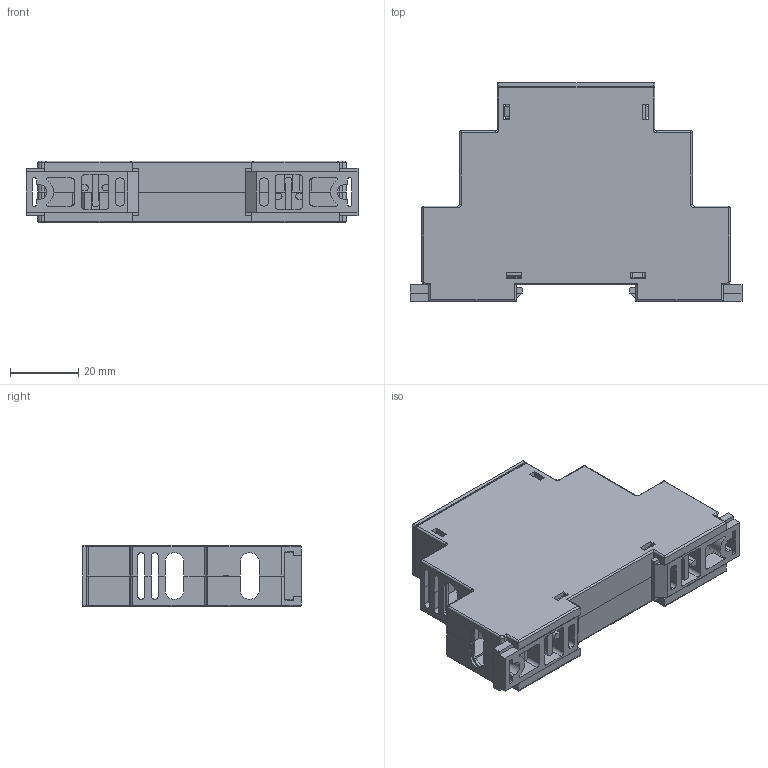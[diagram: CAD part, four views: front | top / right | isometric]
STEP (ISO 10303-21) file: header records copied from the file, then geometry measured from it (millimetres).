
FILE_DESCRIPTION(('STEP AP203'), '1');
FILE_NAME('襠窏.301122.018 扻豵鵨 (03.06.19)', '2020-01-10T07:09:25', ('UNSPECIFIED'), ('UNSPECIFIED'), 'ASCON STEP Converter 1.3', 'ASCON Math Kernel', '');
FILE_SCHEMA(('CONFIG_CONTROL_DESIGN'));
Length unit declared in the file: millimetre
Products named in the file (4): 襠窏.731113.183; 襠窏.751611.027; 襠窏.754312.370
Assembly tree (5 placements, depth 2):
  (unnamed)
    襠窏.731113.183  x2
    襠窏.751611.027  x2
    襠窏.754312.370
Bounding box: 97 x 63.85 x 18 mm (x, y, z)
Volume: 22779.9 mm3; surface area: 33119.4 mm2
Topology: 5 solids, 5 shells, 908 faces, 2560 edges, 1640 vertices
Faces by surface type: plane 666, cylinder 206, torus 16, sphere 12, cone 8
Full cylindrical faces by diameter (mm): 2.2 x2
Entity records: 18837 total; most frequent: CARTESIAN_POINT 2669, ORIENTED_EDGE 2606, DIRECTION 2445, EDGE_CURVE 1303, LINE 1077, VECTOR 1077, VERTEX_POINT 844, AXIS2_PLACEMENT_3D 684
